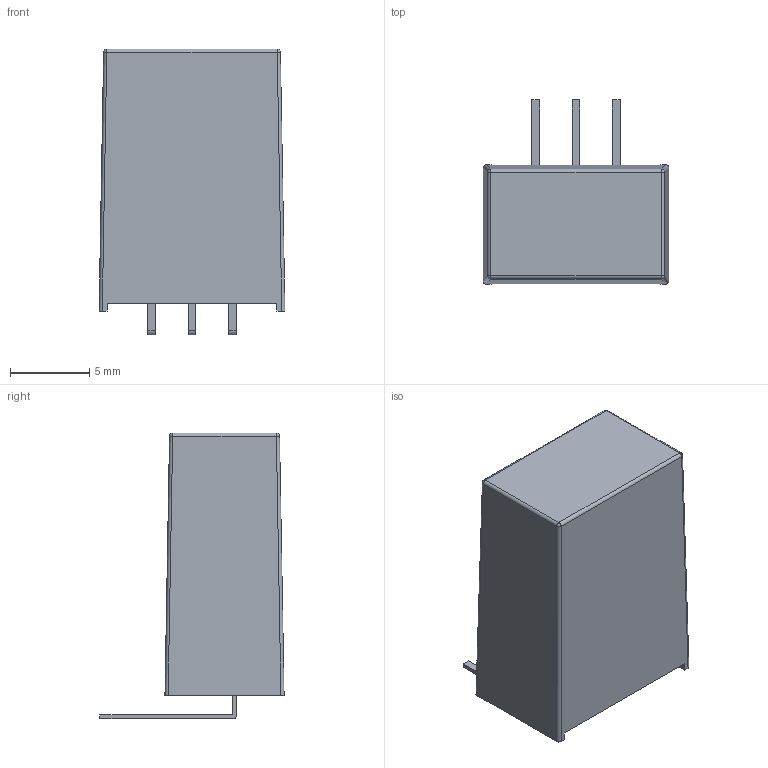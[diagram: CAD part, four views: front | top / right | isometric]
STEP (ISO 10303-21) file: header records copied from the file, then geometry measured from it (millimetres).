
FILE_DESCRIPTION (( 'STEP AP214' ), '1' );
FILE_NAME ('TSN 1-A.STEP', '2018-10-30T08:13:03', ( 'user' ), ( '' ), 'SwSTEP 2.0', 'SolidWorks 2016', '' );
FILE_SCHEMA (( 'AUTOMOTIVE_DESIGN' ));
Length unit declared in the file: millimetre
Products named in the file (1): TSN 1-A
Bounding box: 11.7 x 11.6 x 18 mm (x, y, z)
Volume: 1321.4 mm3; surface area: 813.8 mm2
Topology: 1 solids, 1 shells, 46 faces, 111 edges, 70 vertices
Faces by surface type: plane 31, cylinder 11, sphere 4
Entity records: 1626 total; most frequent: CARTESIAN_POINT 240, ORIENTED_EDGE 222, DIRECTION 219, EDGE_CURVE 111, VECTOR 89, LINE 89, VERTEX_POINT 70, AXIS2_PLACEMENT_3D 65
